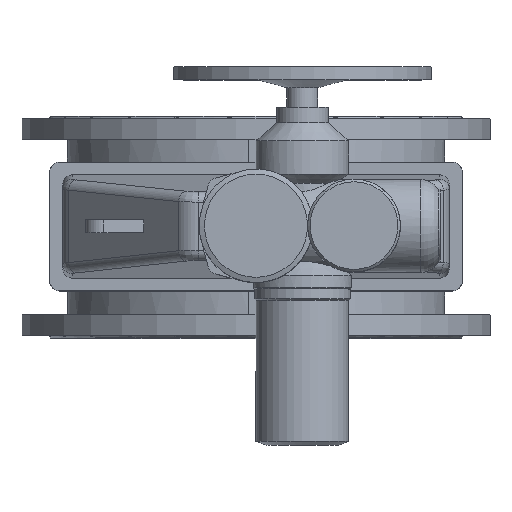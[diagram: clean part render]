
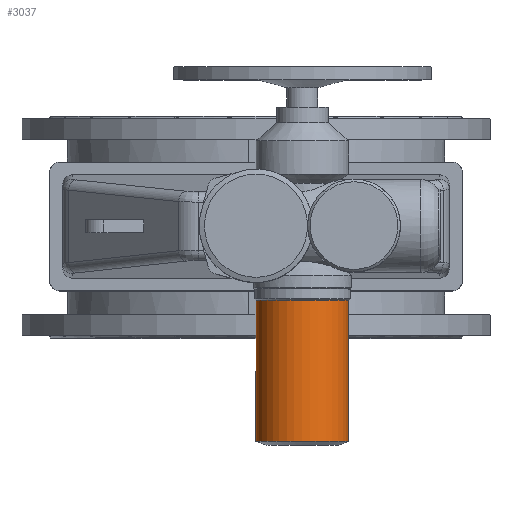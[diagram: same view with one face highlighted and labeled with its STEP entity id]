
A CAD part, top view. The second image highlights one B-rep face of the part: STEP entity #3037.
In plain terms, the highlighted cylindrical face has radius 90 mm (diameter 180 mm), a full revolution.
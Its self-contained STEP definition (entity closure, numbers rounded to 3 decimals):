
#3037=ADVANCED_FACE('',(#7919,#7921),#7923,.T.);
#7919=FACE_OUTER_BOUND('',#7920,.T.);
#7920=EDGE_LOOP('',(#9711));
#7921=FACE_OUTER_BOUND('',#7922,.T.);
#7922=EDGE_LOOP('',(#9712));
#7923=CYLINDRICAL_SURFACE('',#7924,90.);
#7924=AXIS2_PLACEMENT_3D('',#7925,#7926,#7927);
#7925=CARTESIAN_POINT('',(90.,-417.721,1567.));
#7926=DIRECTION('',(0.,1.,0.));
#7927=DIRECTION('',(0.,0.,1.));
#9711=ORIENTED_EDGE('',*,*,#10599,.F.);
#9712=ORIENTED_EDGE('',*,*,#10600,.T.);
#10599=EDGE_CURVE('',#12105,#12105,#12106,.T.);
#10600=EDGE_CURVE('',#12107,#12107,#12108,.T.);
#12105=VERTEX_POINT('',#20356);
#12106=CIRCLE('',#20357,90.);
#12107=VERTEX_POINT('',#20361);
#12108=CIRCLE('',#20362,90.);
#20356=CARTESIAN_POINT('',(90.,-143.811,1657.));
#20357=AXIS2_PLACEMENT_3D('',#20358,#20359,#20360);
#20358=CARTESIAN_POINT('',(90.,-143.811,1567.));
#20359=DIRECTION('',(0.,1.,0.));
#20360=DIRECTION('',(0.,0.,1.));
#20361=CARTESIAN_POINT('',(90.,-417.721,1657.));
#20362=AXIS2_PLACEMENT_3D('',#20363,#20364,#20365);
#20363=CARTESIAN_POINT('',(90.,-417.721,1567.));
#20364=DIRECTION('',(0.,1.,0.));
#20365=DIRECTION('',(0.,0.,1.));
